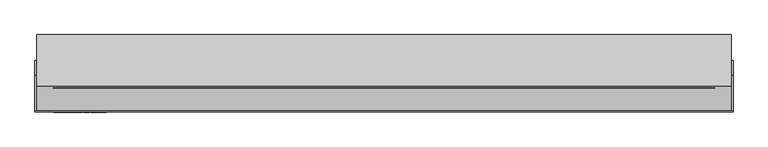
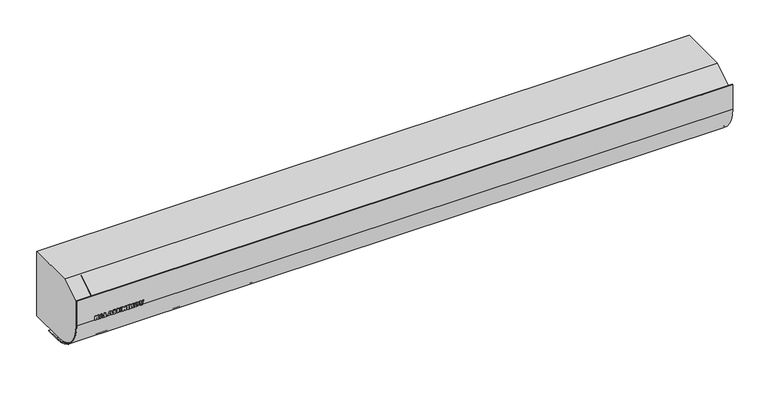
"""IFC4 building model written with IfcOpenShell, lengths in millimetres: proxy geometry, ADSK_Завеса_Электрическая : KVC-A15E6-11."""

from ifc_helpers import new_model, si_unit, point, frame, frame_2d, origin, place, context, project, spatial, polyline, circle_curve, trimmed, segment, composite_curve, outline, extrude, source, transform, mapped, element, save
from ifc_brep_helpers import plane_surface, cylinder_surface, advanced_brep


def mechanical_equipment_6979c24a(model_context):
    return source(origin(), model_context, "Body", "SolidModel", [
        extrude(outline(polyline([(90.0, -719.0196078), (80.0, -719.0196078), (80.0, -715.8823529), (81.7647059, -715.8823529), (83.7745098, -714.1115196), (80.0, -712.2794118), (80.0, -708.4313725), (86.2775735, -711.9056373), (90.0, -708.627451), (90.0, -712.8982843), (86.2224265, -715.8823529), (90.0, -715.8823529), (90.0, -719.0196078)])), frame((0.0, -169.0, 0.0), z_axis=(0.0, 1.0, 0.0), x_axis=(0.0, 0.0, 1.0)), (0.0, 0.0, 1.0), 1.0),
        extrude(outline(polyline([(81.5686275, -701.4338235), (80.0, -700.9803922), (80.0, -697.6470588), (90.0, -701.0202206), (90.0, -705.0582108), (80.0, -708.4313725), (80.0, -705.0980392), (81.5686275, -704.6660539), (81.5686275, -701.4338235)]), holes=[polyline([(83.9215686, -702.0281863), (83.9215686, -704.0165441), (87.4540441, -703.0392157), (83.9215686, -702.0281863)])]), frame((0.0, -169.0, 0.0), z_axis=(0.0, 1.0, 0.0), x_axis=(0.0, 0.0, 1.0)), (0.0, 0.0, 1.0), 1.0),
        extrude(outline(polyline([(90.0, -696.6666667), (80.0, -696.6666667), (80.0, -688.8235294), (82.3529412, -688.8235294), (82.3529412, -693.5294118), (90.0, -693.5294118), (90.0, -696.6666667)])), frame((0.0, -169.0, 0.0), z_axis=(0.0, 1.0, 0.0), x_axis=(0.0, 0.0, 1.0)), (0.0, 0.0, 1.0), 1.0),
        extrude(outline(polyline([(81.5686275, -681.4338235), (80.0, -680.9803922), (80.0, -677.6470588), (90.0, -681.0202206), (90.0, -685.0582108), (80.0, -688.4313725), (80.0, -685.0980392), (81.5686275, -684.6660539), (81.5686275, -681.4338235)]), holes=[polyline([(83.9215686, -682.0281863), (83.9215686, -684.0165441), (87.4540441, -683.0392157), (83.9215686, -682.0281863)])]), frame((0.0, -169.0, 0.0), z_axis=(0.0, 1.0, 0.0), x_axis=(0.0, 0.0, 1.0)), (0.0, 0.0, 1.0), 1.0),
        extrude(outline(polyline([(83.3394608, -677.254902), (80.8026961, -676.1488971), (79.8039216, -672.6378676), (80.2297794, -670.2420343), (81.4813113, -668.7637868), (83.28125, -668.2352941), (84.7870711, -668.6305147), (85.9129902, -669.8958333), (86.8106618, -672.7757353), (88.4313725, -672.9074755), (88.1050858, -672.1338848), (87.0588235, -671.7647059), (87.2395833, -668.627451), (89.4883578, -669.8054534), (90.1960784, -672.6807598), (89.8039216, -675.1011029), (88.7285539, -676.4231005), (87.276348, -676.8627451), (85.3492647, -675.9957108), (84.1237745, -673.1219363), (82.8186275, -671.372549), (82.0818015, -671.6865809), (81.7647059, -672.5796569), (82.3958333, -673.7775735), (83.5294118, -674.1176471), (83.3394608, -677.254902)])), frame((0.0, -169.0, 0.0), z_axis=(0.0, 1.0, 0.0), x_axis=(0.0, 0.0, 1.0)), (0.0, 0.0, 1.0), 1.0),
        extrude(outline(polyline([(90.0, -666.6666667), (80.0, -666.6666667), (80.0, -663.5294118), (84.1176471, -663.5294118), (84.1176471, -660.1960784), (80.0, -660.1960784), (80.0, -657.0588235), (90.0, -657.0588235), (90.0, -660.1960784), (86.4705882, -660.1960784), (86.4705882, -663.5294118), (90.0, -663.5294118), (90.0, -666.6666667)])), frame((0.0, -169.0, 0.0), z_axis=(0.0, 1.0, 0.0), x_axis=(0.0, 0.0, 1.0)), (0.0, 0.0, 1.0), 1.0),
        extrude(outline(polyline([(90.0, -655.0980392), (80.0, -655.0980392), (80.0, -652.1568627), (85.4901961, -652.1568627), (80.0, -648.4313725), (80.0, -645.4901961), (90.0, -645.4901961), (90.0, -648.4313725), (84.4730392, -648.4313725), (90.0, -652.1783088), (90.0, -655.0980392)])), frame((0.0, -169.0, 0.0), z_axis=(0.0, 1.0, 0.0), x_axis=(0.0, 0.0, 1.0)), (0.0, 0.0, 1.0), 1.0),
        extrude(outline(polyline([(-640.1960784, -169.0), (-643.3333333, -169.0), (-643.3333333, -168.0), (-640.1960784, -168.0), (-640.1960784, -169.0)])), frame((0.0, 0.0, 80.0), z_axis=(0.0, 0.0, 1.0), x_axis=(1.0, 0.0, 0.0)), (0.0, 0.0, 1.0), 10.0),
        extrude(outline(polyline([(90.0, -638.0392157), (80.0, -638.0392157), (80.0, -634.9019608), (81.7647059, -634.9019608), (83.7745098, -633.1311275), (80.0, -631.2990196), (80.0, -627.4509804), (86.2775735, -630.9252451), (90.0, -627.6470588), (90.0, -631.9178922), (86.2224265, -634.9019608), (90.0, -634.9019608), (90.0, -638.0392157)])), frame((0.0, -169.0, 0.0), z_axis=(0.0, 1.0, 0.0), x_axis=(0.0, 0.0, 1.0)), (0.0, 0.0, 1.0), 1.0),
        extrude(outline(polyline([(84.9938725, -626.8627451), (82.0603554, -626.171875), (80.346201, -624.3688725), (79.8039216, -621.5594363), (80.4304534, -618.7729779), (82.1859681, -617.0618873), (85.0765931, -616.4705882), (88.8495711, -617.8247549), (90.1960784, -621.685049), (88.8250613, -625.4947917), (84.9938725, -626.8627451)]), holes=[polyline([(84.9938725, -623.7254902), (87.1813725, -623.1678922), (87.8431373, -621.6911765), (87.1920956, -620.1685049), (85.1286765, -619.6078431), (82.8048407, -620.145527), (82.1568627, -621.6636029), (82.8186275, -623.1709559), (84.9938725, -623.7254902)])]), frame((0.0, -169.0, 0.0), z_axis=(0.0, 1.0, 0.0), x_axis=(0.0, 0.0, 1.0)), (0.0, 0.0, 1.0), 1.0),
        extrude(outline(polyline([(90.0, -615.6862745), (80.0, -611.9699755), (80.0, -608.6397059), (90.0, -604.9019608), (90.0, -608.2352941), (82.8033088, -610.2941176), (90.0, -612.3560049), (90.0, -615.6862745)])), frame((0.0, -169.0, 0.0), z_axis=(0.0, 1.0, 0.0), x_axis=(0.0, 0.0, 1.0)), (0.0, 0.0, 1.0), 1.0),
        extrude(outline(polyline([(-12.6666667, 10.0), (-12.6666667, 0.0), (-21.3333333, 10.0), (-21.3333333, 0.0), (-30.0, 10.0), (-30.0, 0.0), (-38.6666667, 10.0), (-38.6666667, 0.0), (-47.3333333, 10.0), (-47.3333333, 0.0), (-55.9166498, 10.5360909), (-4.0, 10.5360909), (-4.0, 0.0), (-12.6666667, 10.0)])), frame((-720.0, 0.0, 0.0), z_axis=(1.0, 0.0, 0.0), x_axis=(0.0, 1.0, 0.0)), (0.0, 0.0, 1.0), 1440.0),
        advanced_brep(
        [(756.0, -112.0, 160.0), (756.0, -166.0, 125.0), (756.0, -166.0, 80.0), (756.0, -88.0, 2.0), (756.0, 0.0, 2.0), (756.0, 0.0, 160.0), (-756.0, -112.0, 160.0), (-756.0, 0.0, 160.0), (-756.0, 0.0, 2.0), (-756.0, -88.0, 2.0), (-756.0, -166.0, 80.0), (-756.0, -166.0, 125.0), (720.0, -4.0, 2.0), (-720.0, -4.0, 2.0), (-720.0, -56.0, 2.0), (720.0, -56.0, 2.0), (720.0, -4.0, 10.0), (720.0, -56.0, 10.0), (-720.0, -56.0, 10.0), (-720.0, -4.0, 10.0)],
        [
            (0, 1),
            (1, 2),
            (2, 3, circle_curve(frame((756.0, -88.0, 80.0), z_axis=(1.0, 0.0, 0.0), x_axis=(0.0, 1.0, 0.0)), 78.0)),
            (3, 4),
            (4, 5),
            (5, 0),
            (6, 7),
            (7, 8),
            (8, 9),
            (9, 10, circle_curve(frame((-756.0, -88.0, 80.0), z_axis=(-1.0, 0.0, 0.0), x_axis=(0.0, 1.0, 0.0)), 78.0)),
            (10, 11),
            (11, 6),
            (1, 11),
            (10, 2),
            (4, 8),
            (7, 5),
            (6, 0),
            (9, 3),
            (12, 13),
            (13, 14),
            (14, 15),
            (15, 12),
            (16, 17),
            (17, 18),
            (18, 19),
            (19, 16),
            (19, 13),
            (12, 16),
            (18, 14),
            (17, 15),
        ],
        [
            plane_surface(frame((756.0, -112.0, 160.0), z_axis=(1.0, 0.0, 0.0), x_axis=(0.0, -0.8391529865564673, -0.5438954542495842))),
            plane_surface(frame((-756.0, -112.0, 160.0), z_axis=(-1.0, 0.0, 0.0), x_axis=(0.0, 0.8391529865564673, 0.5438954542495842))),
            plane_surface(frame((756.0, -166.0, 125.0), z_axis=(0.0, -1.0, 0.0), x_axis=(-1.0, 0.0, 0.0))),
            plane_surface(frame((756.0, 0.0, 2.0), z_axis=(0.0, 1.0, 0.0), x_axis=(-1.0, 0.0, 0.0))),
            plane_surface(frame((756.0, 0.0, 160.0), z_axis=(0.0, 0.0, 1.0), x_axis=(-1.0, 0.0, 0.0))),
            cylinder_surface(frame((-756.0, -88.0, 80.0), z_axis=(1.0, 0.0, 0.0), x_axis=(0.0, 1.0, 0.0)), 78.0),
            plane_surface(frame((756.0, -88.0, 2.0), z_axis=(0.0, 0.0, -1.0), x_axis=(-1.0, 0.0, 0.0))),
            plane_surface(frame((756.0, -112.0, 160.0), z_axis=(0.0, -0.5438954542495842, 0.8391529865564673), x_axis=(-1.0, 0.0, 0.0))),
            plane_surface(frame((-720.0, -4.0, 10.0), z_axis=(0.0, 0.0, -1.0), x_axis=(-1.0, 0.0, 0.0))),
            plane_surface(frame((720.0, -4.0, 10.0), z_axis=(0.0, -1.0, 0.0), x_axis=(0.0, 0.0, -1.0))),
            plane_surface(frame((-720.0, -4.0, 10.0), z_axis=(1.0, 0.0, 0.0), x_axis=(0.0, 0.0, -1.0))),
            plane_surface(frame((-720.0, -56.0, 10.0), z_axis=(0.0, 1.0, 0.0), x_axis=(0.0, 0.0, -1.0))),
            plane_surface(frame((720.0, -56.0, 10.0), z_axis=(-1.0, 0.0, 0.0), x_axis=(0.0, 0.0, -1.0))),
        ],
        [
            (0, [[1, 2, 3, 4, 5, 6]]),
            (1, [[7, 8, 9, 10, 11, 12]]),
            (2, [[-2, 13, -11, 14]]),
            (3, [[-5, 15, -8, 16]]),
            (4, [[-6, -16, -7, 17]]),
            (5, [[-3, -14, -10, 18]]),
            (6, [[-4, -18, -9, -15], [19, 20, 21, 22]]),
            (7, [[-1, -17, -12, -13]]),
            (8, [[23, 24, 25, 26]]),
            (9, [[-26, 27, -19, 28]]),
            (10, [[-25, 29, -20, -27]]),
            (11, [[-24, 30, -21, -29]]),
            (12, [[-23, -28, -22, -30]]),
        ],
    ),
        extrude(outline(polyline([(0.0, -50.0000001), (0.0, 0.0), (1440.0, 0.0), (1440.0, -50.0000001), (0.0, -50.0000001)])), frame((720.0, -157.390912, 130.1032933), z_axis=(0.0, -0.5438954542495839, 0.8391529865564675), x_axis=(-1.0, 0.0, 0.0)), (0.0, 0.0, 1.0), 0.8),
        extrude(outline(composite_curve([segment(polyline([(-168.0, 140.0), (-166.0, 140.0), (-166.0, 80.0)]), True, "CONTINUOUS"), segment(trimmed(circle_curve(frame_2d((-88.0, 80.0)), 78.0), [point((-166.0, 80.0))], [point((-88.0, 2.0))], True, "CARTESIAN"), True, "CONTINUOUS"), segment(polyline([(-88.0, 2.0), (-56.0, 2.0), (-56.0, 0.0), (-88.0, 0.0)]), True, "CONTINUOUS"), segment(trimmed(circle_curve(frame_2d((-88.0, 80.0)), 80.0), [point((-88.0, 0.0))], [point((-168.0, 80.0))], False, "CARTESIAN"), True, "CONTINUOUS"), segment(polyline([(-168.0, 80.0), (-168.0, 140.0)]), True, "CONTINUOUS")], self_intersect=False)), frame((-760.0, 0.0, 0.0), z_axis=(1.0, 0.0, 0.0), x_axis=(0.0, 1.0, 0.0)), (0.0, 0.0, 1.0), 1520.0),
    ])


if __name__ == "__main__":
    model = new_model("IFC4")
    model_context = context("Model", 3, world=origin())
    ifc_project = project(units=[si_unit("LENGTHUNIT", "METRE", prefix="MILLI")], contexts=[model_context])
    site = spatial("IfcSite", under=ifc_project)
    building = spatial("IfcBuilding", under=site)
    placement = place(None, origin())
    mechanical_equipment_shape = mechanical_equipment_6979c24a(model_context)
    element("IfcBuildingElementProxy", 1, Name="ADSK_Завеса_Электрическая : KVC-A15E6-11", ObjectType="ADSK_Завеса_Электрическая : KVC-A15E6-11", at=placement, inside=building, context=model_context, shape_type="MappedRepresentation", body=[
        mapped(mechanical_equipment_shape, transform((0.0, 0.0, 0.0), x_axis=(1.0, 0.0, 0.0), y_axis=(0.0, 1.0, 0.0), z_axis=(0.0, 0.0, 1.0))),
    ])
    save(model, "model.ifc")
